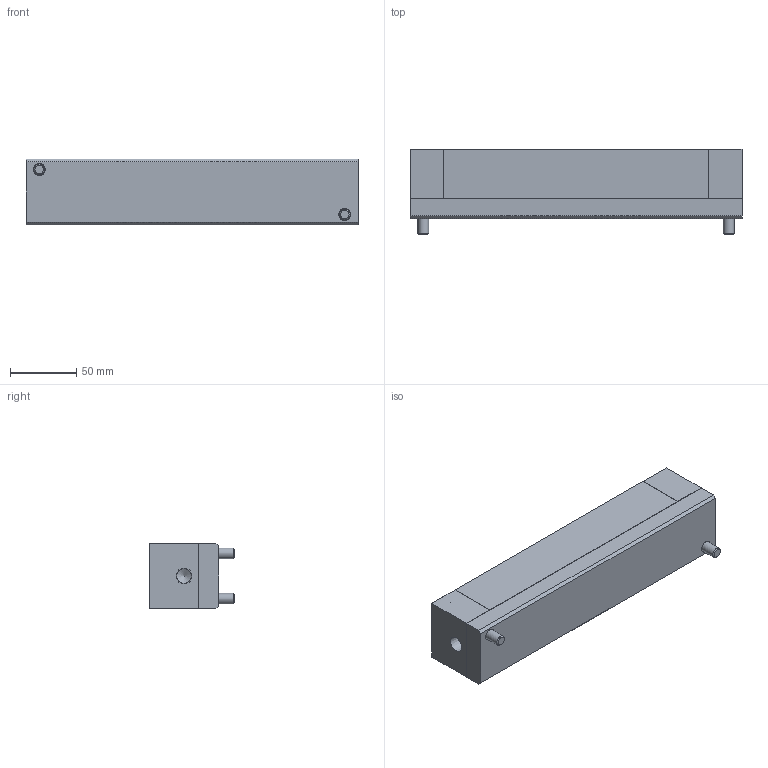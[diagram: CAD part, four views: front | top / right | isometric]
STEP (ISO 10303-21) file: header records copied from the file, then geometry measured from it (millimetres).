
FILE_DESCRIPTION( ( 'STEP AP214' ), '1' );
FILE_NAME( 'Z:/01-DesignData/標準品図面/★Web／カタログ用データ(型式別 3点Set)/072-ISR-C50D 系/ISR-C50D-250-A_0_.stp', '2022-05-10T00:42:46', ( 'License CC BY-ND 4.0' ), ( 'CADENAS' ), ' ', 'PARTsolutions', ' ' );
FILE_SCHEMA( ( 'AUTOMOTIVE_DESIGN { 1 0 10303 214 1 1 1 1 }' ) );
Length unit declared in the file: millimetre
Products named in the file (5): ISR-C50D-250-A(0); _ISR-C50D-250-A-Body; _ISR-C50D-250-A-Box; _ISR-C50D-250-A(0)-Ball; _ISR-C50D-250-A-screw
Assembly tree (8 placements, depth 2):
  ISR-C50D-250-A(0)
    _ISR-C50D-250-A-Body
    _ISR-C50D-250-A-Box
    _ISR-C50D-250-A(0)-Ball  x4
    _ISR-C50D-250-A-screw  x2
Bounding box: 250 x 64 x 49.5 mm (x, y, z)
Volume: 612001.7 mm3; surface area: 140836.2 mm2
Topology: 8 solids, 8 shells, 328 faces, 706 edges, 430 vertices
Faces by surface type: plane 236, cylinder 48, cone 20, torus 20, sphere 4
Full cylindrical faces by diameter (mm): 8 x2, 8.5 x8, 9 x2, 9.5 x8, 13 x4, 14.5 x4, 25.4 x4, 38.5 x4, 39 x4, 42 x8
Entity records: 9308 total; most frequent: DIRECTION 1248, CARTESIAN_POINT 1162, ORIENTED_EDGE 1034, EDGE_CURVE 517, AXIS2_PLACEMENT_3D 444, EDGE_LOOP 380, LINE 360, VECTOR 360
